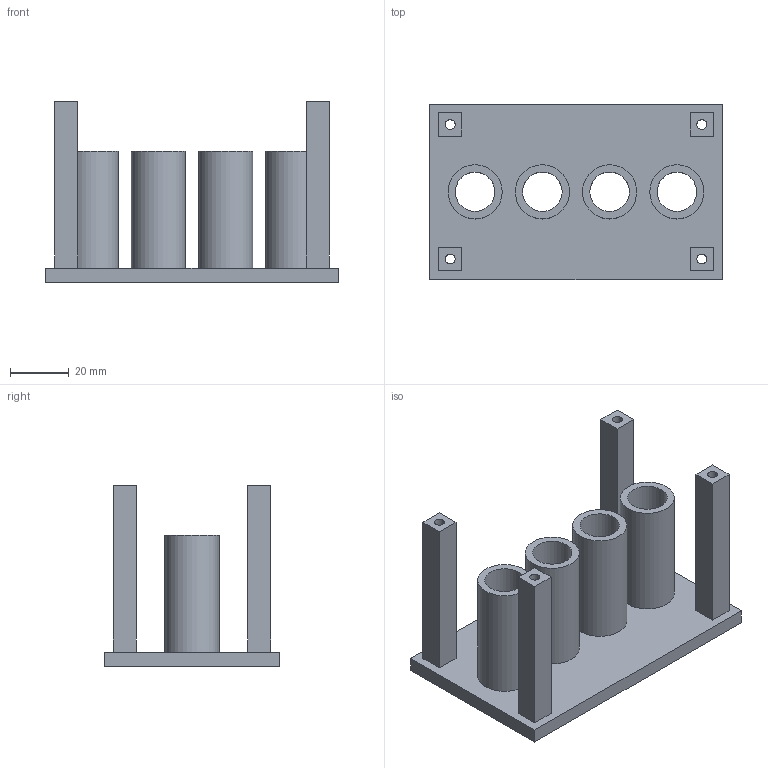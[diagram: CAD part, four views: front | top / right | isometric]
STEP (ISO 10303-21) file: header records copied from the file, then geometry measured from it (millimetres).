
FILE_DESCRIPTION(('Open CASCADE Model'),'2;1');
FILE_NAME('Open CASCADE Shape Model','2026-10-21T17:23:51',('Author'),( 'Open CASCADE'),'Open CASCADE STEP processor 7.9','Open CASCADE 7.9' ,'Unknown');
FILE_SCHEMA(('AUTOMOTIVE_DESIGN { 1 0 10303 214 1 1 1 1 }'));
Length unit declared in the file: millimetre
Products named in the file (1): Open CASCADE STEP translator 7.9 36
Bounding box: 100 x 60 x 62 mm (x, y, z)
Volume: 59494.8 mm3; surface area: 39166.3 mm2
Topology: 1 solids, 1 shells, 46 faces, 104 edges, 68 vertices
Faces by surface type: plane 30, cylinder 12, cone 4
Full cylindrical faces by diameter (mm): 3.4 x4, 13.5 x4, 18.5 x4
Entity records: 2726 total; most frequent: CARTESIAN_POINT 523, DIRECTION 418, LINE 260, VECTOR 260, ORIENTED_EDGE 208, PCURVE 208, DEFINITIONAL_REPRESENTATION 208, EDGE_CURVE 104
